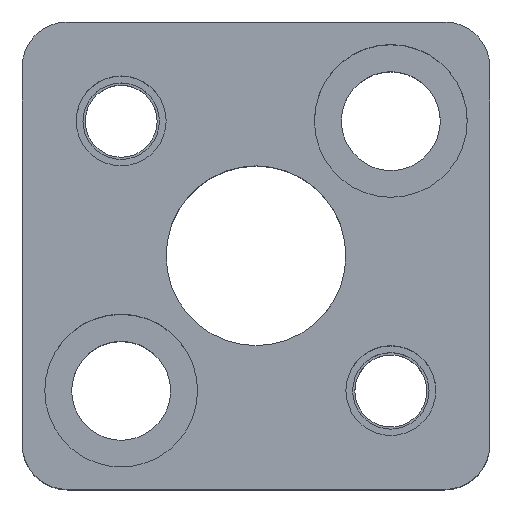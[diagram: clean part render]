
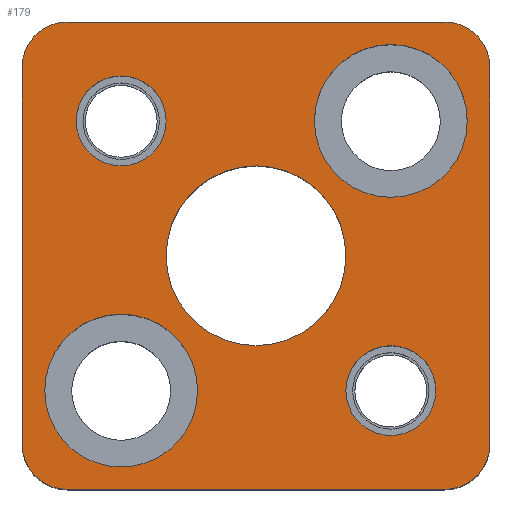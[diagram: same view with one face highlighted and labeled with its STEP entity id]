
A CAD part, top view. The second image highlights one B-rep face of the part: STEP entity #179.
In plain terms, the highlighted planar face has unit normal (0, 0, 1).
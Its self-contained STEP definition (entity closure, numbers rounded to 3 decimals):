
#111=FACE_BOUND('',#314,.T.);
#112=FACE_BOUND('',#315,.T.);
#113=FACE_BOUND('',#316,.T.);
#114=FACE_BOUND('',#317,.T.);
#115=FACE_BOUND('',#318,.T.);
#116=FACE_BOUND('',#319,.T.);
#140=PLANE('',#1098);
#179=ADVANCED_FACE('',(#111,#112,#113,#114,#115,#116),#140,.T.);
#314=EDGE_LOOP('',(#527,#528,#529,#530,#531,#532,#533,#534));
#315=EDGE_LOOP('',(#535,#536));
#316=EDGE_LOOP('',(#537,#538));
#317=EDGE_LOOP('',(#539,#540));
#318=EDGE_LOOP('',(#541,#542));
#319=EDGE_LOOP('',(#543,#544));
#377=CIRCLE('',#1062,5.);
#379=CIRCLE('',#1065,5.);
#381=CIRCLE('',#1069,5.);
#383=CIRCLE('',#1072,5.);
#393=CIRCLE('',#1088,5.);
#394=CIRCLE('',#1089,5.);
#395=CIRCLE('',#1090,5.);
#396=CIRCLE('',#1091,5.);
#397=CIRCLE('',#1092,8.5);
#398=CIRCLE('',#1093,8.5);
#399=CIRCLE('',#1094,8.5);
#400=CIRCLE('',#1095,8.5);
#401=CIRCLE('',#1096,10.);
#402=CIRCLE('',#1097,10.);
#527=ORIENTED_EDGE('',*,*,#838,.T.);
#528=ORIENTED_EDGE('',*,*,#839,.T.);
#529=ORIENTED_EDGE('',*,*,#840,.T.);
#530=ORIENTED_EDGE('',*,*,#841,.T.);
#531=ORIENTED_EDGE('',*,*,#842,.T.);
#532=ORIENTED_EDGE('',*,*,#843,.T.);
#533=ORIENTED_EDGE('',*,*,#844,.T.);
#534=ORIENTED_EDGE('',*,*,#845,.T.);
#535=ORIENTED_EDGE('',*,*,#846,.F.);
#536=ORIENTED_EDGE('',*,*,#847,.F.);
#537=ORIENTED_EDGE('',*,*,#848,.F.);
#538=ORIENTED_EDGE('',*,*,#849,.F.);
#539=ORIENTED_EDGE('',*,*,#824,.F.);
#540=ORIENTED_EDGE('',*,*,#820,.F.);
#541=ORIENTED_EDGE('',*,*,#818,.F.);
#542=ORIENTED_EDGE('',*,*,#814,.F.);
#543=ORIENTED_EDGE('',*,*,#850,.T.);
#544=ORIENTED_EDGE('',*,*,#851,.T.);
#715=VERTEX_POINT('',#1546);
#716=VERTEX_POINT('',#1547);
#719=VERTEX_POINT('',#1559);
#720=VERTEX_POINT('',#1560);
#731=VERTEX_POINT('',#1596);
#732=VERTEX_POINT('',#1597);
#733=VERTEX_POINT('',#1599);
#734=VERTEX_POINT('',#1601);
#735=VERTEX_POINT('',#1603);
#736=VERTEX_POINT('',#1605);
#737=VERTEX_POINT('',#1607);
#738=VERTEX_POINT('',#1609);
#739=VERTEX_POINT('',#1612);
#740=VERTEX_POINT('',#1613);
#741=VERTEX_POINT('',#1616);
#742=VERTEX_POINT('',#1617);
#743=VERTEX_POINT('',#1620);
#744=VERTEX_POINT('',#1621);
#814=EDGE_CURVE('',#715,#716,#377,.T.);
#818=EDGE_CURVE('',#716,#715,#379,.T.);
#820=EDGE_CURVE('',#719,#720,#381,.T.);
#824=EDGE_CURVE('',#720,#719,#383,.T.);
#838=EDGE_CURVE('',#731,#732,#393,.T.);
#839=EDGE_CURVE('',#732,#733,#931,.T.);
#840=EDGE_CURVE('',#733,#734,#394,.T.);
#841=EDGE_CURVE('',#734,#735,#932,.T.);
#842=EDGE_CURVE('',#735,#736,#395,.T.);
#843=EDGE_CURVE('',#736,#737,#933,.T.);
#844=EDGE_CURVE('',#737,#738,#396,.T.);
#845=EDGE_CURVE('',#738,#731,#934,.T.);
#846=EDGE_CURVE('',#739,#740,#397,.T.);
#847=EDGE_CURVE('',#740,#739,#398,.T.);
#848=EDGE_CURVE('',#741,#742,#399,.T.);
#849=EDGE_CURVE('',#742,#741,#400,.T.);
#850=EDGE_CURVE('',#743,#744,#401,.T.);
#851=EDGE_CURVE('',#744,#743,#402,.T.);
#931=LINE('',#1598,#992);
#932=LINE('',#1602,#993);
#933=LINE('',#1606,#994);
#934=LINE('',#1610,#995);
#992=VECTOR('',#1306,1.);
#993=VECTOR('',#1309,1.);
#994=VECTOR('',#1312,1.);
#995=VECTOR('',#1315,1.);
#1062=AXIS2_PLACEMENT_3D('',#1545,#1244,#1245);
#1065=AXIS2_PLACEMENT_3D('',#1554,#1252,#1253);
#1069=AXIS2_PLACEMENT_3D('',#1558,#1260,#1261);
#1072=AXIS2_PLACEMENT_3D('',#1567,#1268,#1269);
#1088=AXIS2_PLACEMENT_3D('',#1595,#1304,#1305);
#1089=AXIS2_PLACEMENT_3D('',#1600,#1307,#1308);
#1090=AXIS2_PLACEMENT_3D('',#1604,#1310,#1311);
#1091=AXIS2_PLACEMENT_3D('',#1608,#1313,#1314);
#1092=AXIS2_PLACEMENT_3D('',#1611,#1316,#1317);
#1093=AXIS2_PLACEMENT_3D('',#1614,#1318,#1319);
#1094=AXIS2_PLACEMENT_3D('',#1615,#1320,#1321);
#1095=AXIS2_PLACEMENT_3D('',#1618,#1322,#1323);
#1096=AXIS2_PLACEMENT_3D('',#1619,#1324,#1325);
#1097=AXIS2_PLACEMENT_3D('',#1622,#1326,#1327);
#1098=AXIS2_PLACEMENT_3D('',#1623,#1328,#1329);
#1244=DIRECTION('',(0.,0.,1.));
#1245=DIRECTION('',(-1.,0.,0.));
#1252=DIRECTION('',(0.,0.,1.));
#1253=DIRECTION('',(1.,0.,0.));
#1260=DIRECTION('',(0.,0.,1.));
#1261=DIRECTION('',(-1.,0.,0.));
#1268=DIRECTION('',(0.,0.,1.));
#1269=DIRECTION('',(1.,0.,0.));
#1304=DIRECTION('',(0.,0.,1.));
#1305=DIRECTION('',(-0.707,0.707,0.));
#1306=DIRECTION('',(0.,1.,0.));
#1307=DIRECTION('',(0.,0.,1.));
#1308=DIRECTION('',(-0.707,-0.707,0.));
#1309=DIRECTION('',(-1.,0.,0.));
#1310=DIRECTION('',(0.,0.,1.));
#1311=DIRECTION('',(0.707,-0.707,0.));
#1312=DIRECTION('',(0.,-1.,0.));
#1313=DIRECTION('',(0.,0.,1.));
#1314=DIRECTION('',(0.707,0.707,0.));
#1315=DIRECTION('',(1.,0.,0.));
#1316=DIRECTION('',(0.,0.,1.));
#1317=DIRECTION('',(1.,0.,0.));
#1318=DIRECTION('',(0.,0.,1.));
#1319=DIRECTION('',(-1.,0.,0.));
#1320=DIRECTION('',(0.,0.,1.));
#1321=DIRECTION('',(1.,0.,0.));
#1322=DIRECTION('',(0.,0.,1.));
#1323=DIRECTION('',(-1.,0.,0.));
#1324=DIRECTION('',(0.,0.,-1.));
#1325=DIRECTION('',(-1.,0.,0.));
#1326=DIRECTION('',(0.,0.,-1.));
#1327=DIRECTION('',(1.,0.,0.));
#1328=DIRECTION('',(0.,0.,1.));
#1329=DIRECTION('',(-1.,0.,0.));
#1545=CARTESIAN_POINT('',(15.,-15.,35.));
#1546=CARTESIAN_POINT('',(15.,-20.,35.));
#1547=CARTESIAN_POINT('',(15.,-10.,35.));
#1554=CARTESIAN_POINT('',(15.,-15.,35.));
#1558=CARTESIAN_POINT('',(-15.,15.,35.));
#1559=CARTESIAN_POINT('',(-15.,10.,35.));
#1560=CARTESIAN_POINT('',(-15.,20.,35.));
#1567=CARTESIAN_POINT('',(-15.,15.,35.));
#1595=CARTESIAN_POINT('',(21.,-21.,35.));
#1596=CARTESIAN_POINT('',(21.,-26.,35.));
#1597=CARTESIAN_POINT('',(26.,-21.,35.));
#1598=CARTESIAN_POINT('',(26.,21.,35.));
#1599=CARTESIAN_POINT('',(26.,21.,35.));
#1600=CARTESIAN_POINT('',(21.,21.,35.));
#1601=CARTESIAN_POINT('',(21.,26.,35.));
#1602=CARTESIAN_POINT('',(-21.,26.,35.));
#1603=CARTESIAN_POINT('',(-21.,26.,35.));
#1604=CARTESIAN_POINT('',(-21.,21.,35.));
#1605=CARTESIAN_POINT('',(-26.,21.,35.));
#1606=CARTESIAN_POINT('',(-26.,21.,35.));
#1607=CARTESIAN_POINT('',(-26.,-21.,35.));
#1608=CARTESIAN_POINT('',(-21.,-21.,35.));
#1609=CARTESIAN_POINT('',(-21.,-26.,35.));
#1610=CARTESIAN_POINT('',(-21.,-26.,35.));
#1611=CARTESIAN_POINT('',(15.,15.,35.));
#1612=CARTESIAN_POINT('',(15.,23.5,35.));
#1613=CARTESIAN_POINT('',(15.,6.5,35.));
#1614=CARTESIAN_POINT('',(15.,15.,35.));
#1615=CARTESIAN_POINT('',(-15.,-15.,35.));
#1616=CARTESIAN_POINT('',(-15.,-6.5,35.));
#1617=CARTESIAN_POINT('',(-15.,-23.5,35.));
#1618=CARTESIAN_POINT('',(-15.,-15.,35.));
#1619=CARTESIAN_POINT('',(0.,0.,35.));
#1620=CARTESIAN_POINT('',(0.,10.,35.));
#1621=CARTESIAN_POINT('',(0.,-10.,35.));
#1622=CARTESIAN_POINT('',(0.,0.,35.));
#1623=CARTESIAN_POINT('',(21.,-26.,35.));
